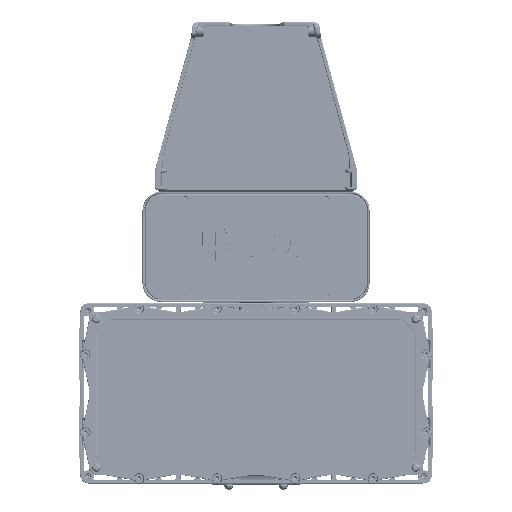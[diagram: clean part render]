
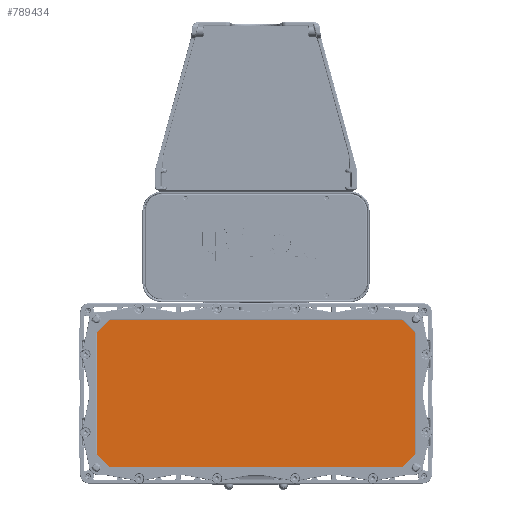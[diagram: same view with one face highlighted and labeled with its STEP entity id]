
A CAD part, front view. The second image highlights one B-rep face of the part: STEP entity #789434.
In plain terms, the highlighted planar face has unit normal (0, -1, 0) as drawn and (0, 1, 0) by its records, which use the part's own axes.
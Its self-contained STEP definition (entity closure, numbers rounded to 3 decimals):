
#736574=CARTESIAN_POINT('',(-7.495,0.382,-3.791));
#736575=CARTESIAN_POINT('',(-7.502,0.382,
-3.791));
#736576=CARTESIAN_POINT('',(-7.515,0.382,
-3.789));
#736577=CARTESIAN_POINT('',(-7.533,0.382,
-3.782));
#736578=CARTESIAN_POINT('',(-7.544,0.382,
-3.773));
#736579=CARTESIAN_POINT('',(-7.548,0.382,-3.769));
#736580=CARTESIAN_POINT('',(-7.548,0.382,
-3.769));
#736592=DIRECTION('',(1.,0.,0.));
#736593=VECTOR('',#736592,14.99);
#736594=CARTESIAN_POINT('',(-7.495,0.382,-3.791));
#736595=LINE('',#736594,#736593);
#736596=CARTESIAN_POINT('',(7.548,0.382,-3.769));
#736597=CARTESIAN_POINT('',(7.543,0.382,
-3.774));
#736598=CARTESIAN_POINT('',(7.532,0.382,
-3.782));
#736599=CARTESIAN_POINT('',(7.514,0.382,
-3.79));
#736600=CARTESIAN_POINT('',(7.5,0.382,
-3.791));
#736601=CARTESIAN_POINT('',(7.495,0.382,-3.791));
#736602=CARTESIAN_POINT('',(7.495,0.382,-3.791));
#736614=DIRECTION('',(0.707,0.,0.707));
#736615=VECTOR('',#736614,0.879);
#736616=CARTESIAN_POINT('',(7.548,0.382,-3.769));
#736617=LINE('',#736616,#736615);
#736618=CARTESIAN_POINT('',(8.191,0.382,-3.095));
#736619=CARTESIAN_POINT('',(8.191,0.382,
-3.102));
#736620=CARTESIAN_POINT('',(8.189,0.382,
-3.115));
#736621=CARTESIAN_POINT('',(8.182,0.382,
-3.133));
#736622=CARTESIAN_POINT('',(8.173,0.382,
-3.144));
#736623=CARTESIAN_POINT('',(8.169,0.382,-3.148));
#736624=CARTESIAN_POINT('',(8.169,0.382,
-3.148));
#736636=DIRECTION('',(0.,0.,1.));
#736637=VECTOR('',#736636,6.19);
#736638=CARTESIAN_POINT('',(8.191,0.382,-3.095));
#736639=LINE('',#736638,#736637);
#736640=CARTESIAN_POINT('',(8.169,0.382,3.148));
#736641=CARTESIAN_POINT('',(8.174,0.382,
3.143));
#736642=CARTESIAN_POINT('',(8.182,0.382,
3.132));
#736643=CARTESIAN_POINT('',(8.19,0.382,
3.114));
#736644=CARTESIAN_POINT('',(8.191,0.382,
3.1));
#736645=CARTESIAN_POINT('',(8.191,0.382,3.095));
#736646=CARTESIAN_POINT('',(8.191,0.382,3.095));
#736658=DIRECTION('',(-0.707,0.,0.707));
#736659=VECTOR('',#736658,0.879);
#736660=CARTESIAN_POINT('',(8.169,0.382,3.148));
#736661=LINE('',#736660,#736659);
#736662=CARTESIAN_POINT('',(7.495,0.382,3.791));
#736663=CARTESIAN_POINT('',(7.502,0.382,
3.791));
#736664=CARTESIAN_POINT('',(7.515,0.382,
3.789));
#736665=CARTESIAN_POINT('',(7.533,0.382,
3.782));
#736666=CARTESIAN_POINT('',(7.544,0.382,
3.773));
#736667=CARTESIAN_POINT('',(7.548,0.382,3.769));
#736668=CARTESIAN_POINT('',(7.548,0.382,
3.769));
#736680=DIRECTION('',(-1.,0.,0.));
#736681=VECTOR('',#736680,14.99);
#736682=CARTESIAN_POINT('',(7.495,0.382,3.791));
#736683=LINE('',#736682,#736681);
#736684=CARTESIAN_POINT('',(-7.548,0.382,3.769));
#736685=CARTESIAN_POINT('',(-7.543,0.382,
3.774));
#736686=CARTESIAN_POINT('',(-7.532,0.382,
3.782));
#736687=CARTESIAN_POINT('',(-7.514,0.382,
3.79));
#736688=CARTESIAN_POINT('',(-7.5,0.382,
3.791));
#736689=CARTESIAN_POINT('',(-7.495,0.382,3.791));
#736690=CARTESIAN_POINT('',(-7.495,0.382,3.791));
#736702=DIRECTION('',(-0.707,0.,
-0.707));
#736703=VECTOR('',#736702,0.879);
#736704=CARTESIAN_POINT('',(-7.548,0.382,3.769));
#736705=LINE('',#736704,#736703);
#736706=CARTESIAN_POINT('',(-8.191,0.382,3.095));
#736707=CARTESIAN_POINT('',(-8.191,0.382,
3.102));
#736708=CARTESIAN_POINT('',(-8.189,0.382,
3.115));
#736709=CARTESIAN_POINT('',(-8.182,0.382,
3.133));
#736710=CARTESIAN_POINT('',(-8.173,0.382,
3.144));
#736711=CARTESIAN_POINT('',(-8.169,0.382,3.148));
#736712=CARTESIAN_POINT('',(-8.169,0.382,
3.148));
#736724=DIRECTION('',(0.,0.,-1.));
#736725=VECTOR('',#736724,6.19);
#736726=CARTESIAN_POINT('',(-8.191,0.382,3.095));
#736727=LINE('',#736726,#736725);
#736728=CARTESIAN_POINT('',(-8.169,0.382,-3.148));
#736729=CARTESIAN_POINT('',(-8.174,0.382,
-3.143));
#736730=CARTESIAN_POINT('',(-8.182,0.382,
-3.132));
#736731=CARTESIAN_POINT('',(-8.19,0.382,
-3.114));
#736732=CARTESIAN_POINT('',(-8.191,0.382,
-3.1));
#736733=CARTESIAN_POINT('',(-8.191,0.382,-3.095));
#736734=CARTESIAN_POINT('',(-8.191,0.382,-3.095));
#736746=DIRECTION('',(0.707,0.,-0.707));
#736747=VECTOR('',#736746,0.879);
#736748=CARTESIAN_POINT('',(-8.169,0.382,-3.148));
#736749=LINE('',#736748,#736747);
#739931=VERTEX_POINT('',#736574);
#739932=VERTEX_POINT('',#736580);
#739933=CARTESIAN_POINT('',(7.495,0.382,-3.791));
#739934=VERTEX_POINT('',#739933);
#739935=VERTEX_POINT('',#736596);
#739936=CARTESIAN_POINT('',(8.169,0.382,
-3.148));
#739937=VERTEX_POINT('',#739936);
#739938=VERTEX_POINT('',#736618);
#739939=CARTESIAN_POINT('',(8.191,0.382,3.095));
#739940=VERTEX_POINT('',#739939);
#739941=VERTEX_POINT('',#736640);
#739942=CARTESIAN_POINT('',(7.548,0.382,
3.769));
#739943=VERTEX_POINT('',#739942);
#739944=VERTEX_POINT('',#736662);
#739945=CARTESIAN_POINT('',(-7.495,0.382,3.791));
#739946=VERTEX_POINT('',#739945);
#739947=VERTEX_POINT('',#736684);
#739948=CARTESIAN_POINT('',(-8.169,0.382,
3.148));
#739949=VERTEX_POINT('',#739948);
#739950=VERTEX_POINT('',#736706);
#739951=CARTESIAN_POINT('',(-8.191,0.382,-3.095));
#739952=VERTEX_POINT('',#739951);
#739953=VERTEX_POINT('',#736728);
#789396=CARTESIAN_POINT('',(0.,0.382,0.));
#789397=DIRECTION('',(0.,-1.,0.));
#789398=DIRECTION('',(1.,0.,0.));
#789399=AXIS2_PLACEMENT_3D('',#789396,#789397,#789398);
#789400=PLANE('',#789399);
#789401=ORIENTED_EDGE('',*,*,#789386,.F.);
#789403=ORIENTED_EDGE('',*,*,#789402,.T.);
#789405=ORIENTED_EDGE('',*,*,#789404,.F.);
#789407=ORIENTED_EDGE('',*,*,#789406,.T.);
#789409=ORIENTED_EDGE('',*,*,#789408,.F.);
#789411=ORIENTED_EDGE('',*,*,#789410,.T.);
#789413=ORIENTED_EDGE('',*,*,#789412,.F.);
#789415=ORIENTED_EDGE('',*,*,#789414,.T.);
#789417=ORIENTED_EDGE('',*,*,#789416,.F.);
#789419=ORIENTED_EDGE('',*,*,#789418,.T.);
#789421=ORIENTED_EDGE('',*,*,#789420,.F.);
#789423=ORIENTED_EDGE('',*,*,#789422,.T.);
#789425=ORIENTED_EDGE('',*,*,#789424,.F.);
#789427=ORIENTED_EDGE('',*,*,#789426,.T.);
#789429=ORIENTED_EDGE('',*,*,#789428,.F.);
#789431=ORIENTED_EDGE('',*,*,#789430,.T.);
#789432=EDGE_LOOP('',(#789401,#789403,#789405,#789407,#789409,#789411,#789413,
#789415,#789417,#789419,#789421,#789423,#789425,#789427,#789429,#789431));
#789433=FACE_OUTER_BOUND('',#789432,.F.);
#789434=ADVANCED_FACE('',(#789433),#789400,.F.);
#736581=B_SPLINE_CURVE_WITH_KNOTS('',3,(#736574,#736575,#736576,#736577,#736578,
#736579,#736580),.UNSPECIFIED.,.F.,.F.,(4,1,1,1,4),(0.,0.361,
0.683,1.,1.),.UNSPECIFIED.);
#736603=B_SPLINE_CURVE_WITH_KNOTS('',3,(#736596,#736597,#736598,#736599,#736600,
#736601,#736602),.UNSPECIFIED.,.F.,.F.,(4,1,1,1,4),(0.,0.357,
0.684,1.,1.),.UNSPECIFIED.);
#736625=B_SPLINE_CURVE_WITH_KNOTS('',3,(#736618,#736619,#736620,#736621,#736622,
#736623,#736624),.UNSPECIFIED.,.F.,.F.,(4,1,1,1,4),(0.,0.361,
0.683,1.,1.),.UNSPECIFIED.);
#736647=B_SPLINE_CURVE_WITH_KNOTS('',3,(#736640,#736641,#736642,#736643,#736644,
#736645,#736646),.UNSPECIFIED.,.F.,.F.,(4,1,1,1,4),(0.,0.357,
0.684,1.,1.),.UNSPECIFIED.);
#736669=B_SPLINE_CURVE_WITH_KNOTS('',3,(#736662,#736663,#736664,#736665,#736666,
#736667,#736668),.UNSPECIFIED.,.F.,.F.,(4,1,1,1,4),(0.,0.361,
0.683,1.,1.),.UNSPECIFIED.);
#736691=B_SPLINE_CURVE_WITH_KNOTS('',3,(#736684,#736685,#736686,#736687,#736688,
#736689,#736690),.UNSPECIFIED.,.F.,.F.,(4,1,1,1,4),(0.,0.357,
0.684,1.,1.),.UNSPECIFIED.);
#736713=B_SPLINE_CURVE_WITH_KNOTS('',3,(#736706,#736707,#736708,#736709,#736710,
#736711,#736712),.UNSPECIFIED.,.F.,.F.,(4,1,1,1,4),(0.,0.361,
0.683,1.,1.),.UNSPECIFIED.);
#736735=B_SPLINE_CURVE_WITH_KNOTS('',3,(#736728,#736729,#736730,#736731,#736732,
#736733,#736734),.UNSPECIFIED.,.F.,.F.,(4,1,1,1,4),(0.,0.357,
0.684,1.,1.),.UNSPECIFIED.);
#789386=EDGE_CURVE('',#739931,#739932,#736581,.T.);
#789402=EDGE_CURVE('',#739931,#739934,#736595,.T.);
#789404=EDGE_CURVE('',#739935,#739934,#736603,.T.);
#789406=EDGE_CURVE('',#739935,#739937,#736617,.T.);
#789408=EDGE_CURVE('',#739938,#739937,#736625,.T.);
#789410=EDGE_CURVE('',#739938,#739940,#736639,.T.);
#789412=EDGE_CURVE('',#739941,#739940,#736647,.T.);
#789414=EDGE_CURVE('',#739941,#739943,#736661,.T.);
#789416=EDGE_CURVE('',#739944,#739943,#736669,.T.);
#789418=EDGE_CURVE('',#739944,#739946,#736683,.T.);
#789420=EDGE_CURVE('',#739947,#739946,#736691,.T.);
#789422=EDGE_CURVE('',#739947,#739949,#736705,.T.);
#789424=EDGE_CURVE('',#739950,#739949,#736713,.T.);
#789426=EDGE_CURVE('',#739950,#739952,#736727,.T.);
#789428=EDGE_CURVE('',#739953,#739952,#736735,.T.);
#789430=EDGE_CURVE('',#739953,#739932,#736749,.T.);
